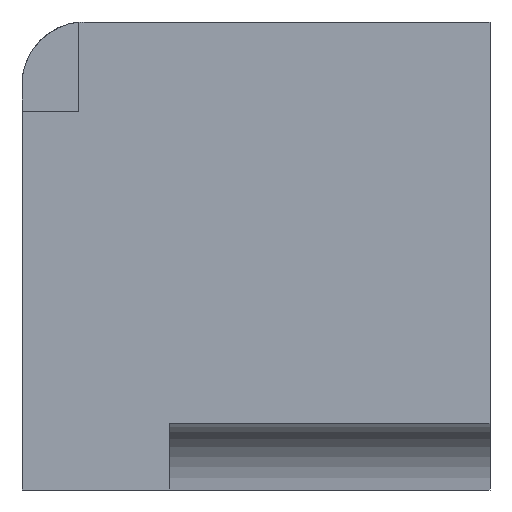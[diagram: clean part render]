
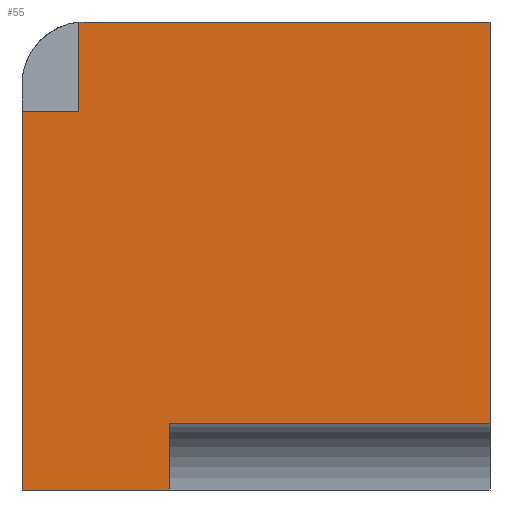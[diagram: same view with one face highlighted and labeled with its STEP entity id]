
A CAD part, front view. The second image highlights one B-rep face of the part: STEP entity #55.
In plain terms, the highlighted planar face has unit normal (0, -1, 0).
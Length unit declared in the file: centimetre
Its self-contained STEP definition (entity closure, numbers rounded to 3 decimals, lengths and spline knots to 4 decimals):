
#4 = ORIENTED_EDGE ( 'NONE', *, *, #555, .T. ) ;
#37 = LINE ( 'NONE', #360, #633 ) ;
#52 = VECTOR ( 'NONE', #425, 100. ) ;
#55 = ADVANCED_FACE ( 'NONE', ( #767 ), #761, .F. ) ;
#58 = LINE ( 'NONE', #530, #199 ) ;
#76 = VERTEX_POINT ( 'NONE', #190 ) ;
#81 = VECTOR ( 'NONE', #537, 100. ) ;
#96 = DIRECTION ( 'NONE',  ( 0., 0., 1. ) ) ;
#104 = DIRECTION ( 'NONE',  ( 0., 1., 0. ) ) ;
#119 = CARTESIAN_POINT ( 'NONE',  ( 0., 0., 1000. ) ) ;
#126 = DIRECTION ( 'NONE',  ( 0., 0., 1. ) ) ;
#146 = VERTEX_POINT ( 'NONE', #449 ) ;
#147 = LINE ( 'NONE', #232, #337 ) ;
#157 = ORIENTED_EDGE ( 'NONE', *, *, #434, .F. ) ;
#177 = EDGE_CURVE ( 'NONE', #1054, #490, #58, .T. ) ;
#179 = ORIENTED_EDGE ( 'NONE', *, *, #316, .F. ) ;
#190 = CARTESIAN_POINT ( 'NONE',  ( 316.1016, 0., 0. ) ) ;
#199 = VECTOR ( 'NONE', #207, 100. ) ;
#206 = CARTESIAN_POINT ( 'NONE',  ( 133.5101, 0., 1000. ) ) ;
#207 = DIRECTION ( 'NONE',  ( 0., 0., 1. ) ) ;
#210 = VERTEX_POINT ( 'NONE', #1061 ) ;
#232 = CARTESIAN_POINT ( 'NONE',  ( 0., 0., 808.9676 ) ) ;
#257 = CARTESIAN_POINT ( 'NONE',  ( 0., 0., 1000. ) ) ;
#287 = CARTESIAN_POINT ( 'NONE',  ( 1000., 0., 1000. ) ) ;
#290 = EDGE_CURVE ( 'NONE', #1064, #146, #968, .T. ) ;
#316 = EDGE_CURVE ( 'NONE', #577, #1054, #147, .T. ) ;
#318 = ORIENTED_EDGE ( 'NONE', *, *, #402, .T. ) ;
#337 = VECTOR ( 'NONE', #469, 100. ) ;
#346 = CARTESIAN_POINT ( 'NONE',  ( 0., 0., 1000. ) ) ;
#347 = DIRECTION ( 'NONE',  ( 0., -1., 0. ) ) ;
#360 = CARTESIAN_POINT ( 'NONE',  ( 316.1016, 0., 1000. ) ) ;
#363 = LINE ( 'NONE', #287, #81 ) ;
#375 = CIRCLE ( 'NONE', #983, 133.5101 ) ;
#385 = CARTESIAN_POINT ( 'NONE',  ( 316.1016, 0., 142.9152 ) ) ;
#402 = EDGE_CURVE ( 'NONE', #210, #76, #922, .T. ) ;
#425 = DIRECTION ( 'NONE',  ( 1., 0., 0. ) ) ;
#428 = DIRECTION ( 'NONE',  ( 0., 0., -1. ) ) ;
#434 = EDGE_CURVE ( 'NONE', #730, #722, #1004, .T. ) ;
#444 = CARTESIAN_POINT ( 'NONE',  ( 121.7107, 0., 808.9676 ) ) ;
#449 = CARTESIAN_POINT ( 'NONE',  ( 1000., 0., 142.9152 ) ) ;
#455 = CARTESIAN_POINT ( 'NONE',  ( 1000., 0., 1000. ) ) ;
#469 = DIRECTION ( 'NONE',  ( 1., 0., 0. ) ) ;
#490 = VERTEX_POINT ( 'NONE', #733 ) ;
#496 = DIRECTION ( 'NONE',  ( 1., 0., 0. ) ) ;
#500 = LINE ( 'NONE', #346, #1037 ) ;
#503 = ORIENTED_EDGE ( 'NONE', *, *, #1024, .F. ) ;
#524 = CARTESIAN_POINT ( 'NONE',  ( 0., 0., 808.9676 ) ) ;
#530 = CARTESIAN_POINT ( 'NONE',  ( 121.7107, 0., 808.9676 ) ) ;
#537 = DIRECTION ( 'NONE',  ( 0., 0., -1. ) ) ;
#547 = AXIS2_PLACEMENT_3D ( 'NONE', #119, #104, #96 ) ;
#550 = DIRECTION ( 'NONE',  ( 1., 0., 0. ) ) ;
#555 = EDGE_CURVE ( 'NONE', #730, #490, #375, .T. ) ;
#577 = VERTEX_POINT ( 'NONE', #524 ) ;
#633 = VECTOR ( 'NONE', #942, 100. ) ;
#668 = EDGE_LOOP ( 'NONE', ( #4, #1057, #179, #1047, #318, #981, #815, #503, #157 ) ) ;
#722 = VERTEX_POINT ( 'NONE', #455 ) ;
#730 = VERTEX_POINT ( 'NONE', #206 ) ;
#733 = CARTESIAN_POINT ( 'NONE',  ( 121.7107, 0., 999.4776 ) ) ;
#759 = VECTOR ( 'NONE', #550, 100. ) ;
#761 = PLANE ( 'NONE',  #547 ) ;
#767 = FACE_OUTER_BOUND ( 'NONE', #668, .T. ) ;
#797 = EDGE_CURVE ( 'NONE', #1064, #76, #37, .T. ) ;
#813 = VECTOR ( 'NONE', #496, 100. ) ;
#815 = ORIENTED_EDGE ( 'NONE', *, *, #290, .T. ) ;
#840 = CARTESIAN_POINT ( 'NONE',  ( 0., 0., 0. ) ) ;
#866 = CARTESIAN_POINT ( 'NONE',  ( 316.1016, 0., 142.9152 ) ) ;
#922 = LINE ( 'NONE', #840, #52 ) ;
#942 = DIRECTION ( 'NONE',  ( 0., 0., -1. ) ) ;
#968 = LINE ( 'NONE', #385, #759 ) ;
#981 = ORIENTED_EDGE ( 'NONE', *, *, #797, .F. ) ;
#983 = AXIS2_PLACEMENT_3D ( 'NONE', #1031, #347, #126 ) ;
#984 = EDGE_CURVE ( 'NONE', #577, #210, #500, .T. ) ;
#1004 = LINE ( 'NONE', #257, #813 ) ;
#1024 = EDGE_CURVE ( 'NONE', #722, #146, #363, .T. ) ;
#1031 = CARTESIAN_POINT ( 'NONE',  ( 133.5101, 0., 866.4899 ) ) ;
#1037 = VECTOR ( 'NONE', #428, 100. ) ;
#1047 = ORIENTED_EDGE ( 'NONE', *, *, #984, .T. ) ;
#1054 = VERTEX_POINT ( 'NONE', #444 ) ;
#1057 = ORIENTED_EDGE ( 'NONE', *, *, #177, .F. ) ;
#1061 = CARTESIAN_POINT ( 'NONE',  ( 0., 0., 0. ) ) ;
#1064 = VERTEX_POINT ( 'NONE', #866 ) ;
